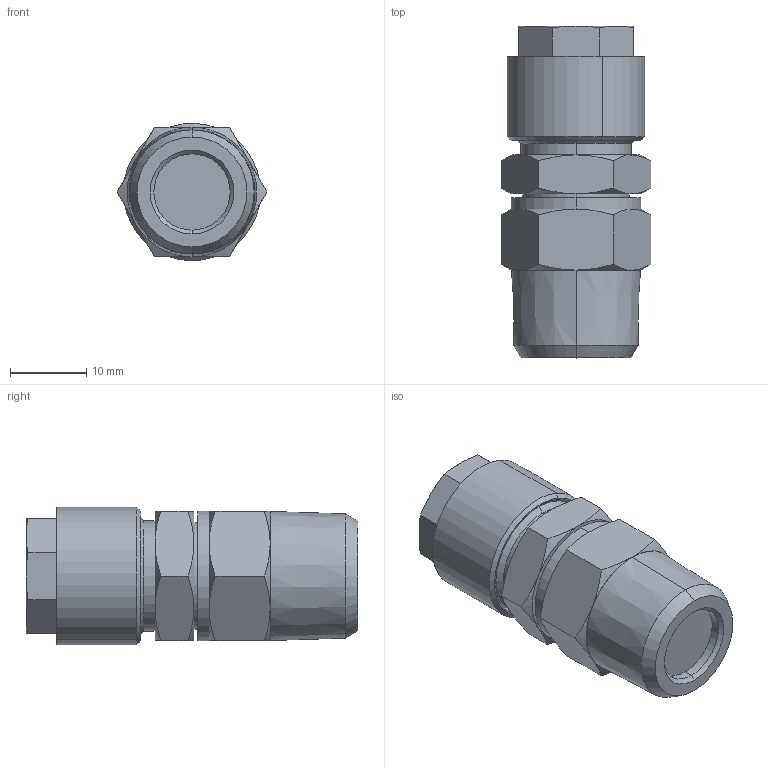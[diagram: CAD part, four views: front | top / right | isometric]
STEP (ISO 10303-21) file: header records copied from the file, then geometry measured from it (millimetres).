
FILE_DESCRIPTION (( 'STEP AP214' ), '1' );
FILE_NAME ('0101000006.step', '2012-09-28T13:17:30', ( '' ), ( '' ), 'SwSTEP 2.0', 'SolidWorks 2012', '' );
FILE_SCHEMA (( 'AUTOMOTIVE_DESIGN' ));
Length unit declared in the file: millimetre
Products named in the file (1): 0101000006
Bounding box: 19.63 x 43.5 x 17.98 mm (x, y, z)
Volume: 9681.6 mm3; surface area: 3278.6 mm2
Topology: 1 solids, 1 shells, 96 faces, 206 edges, 121 vertices
Faces by surface type: cone 45, plane 31, cylinder 16, torus 4
Entity records: 3845 total; most frequent: CARTESIAN_POINT 744, DIRECTION 421, ORIENTED_EDGE 412, EDGE_CURVE 206, AXIS2_PLACEMENT_3D 182, VERTEX_POINT 121, EDGE_LOOP 105, UNCERTAINTY_MEASURE_WITH_UNIT 99
